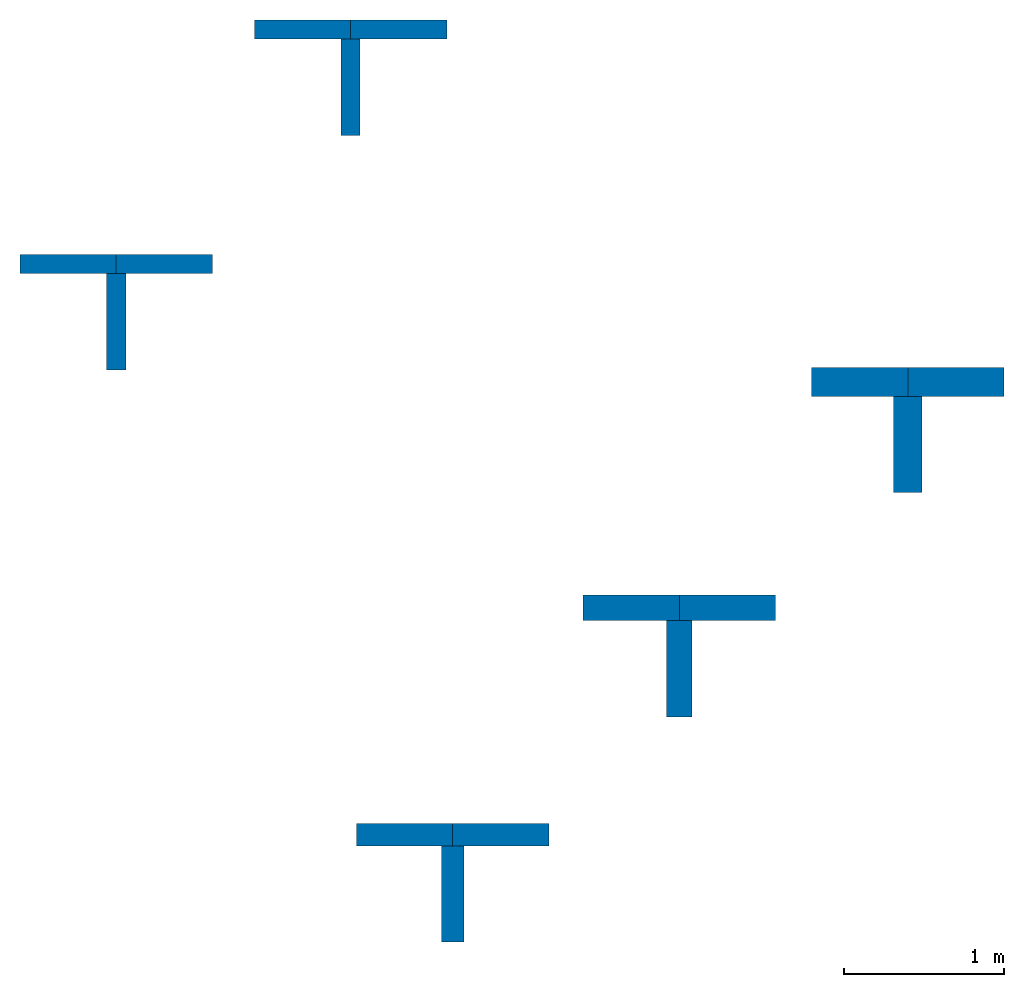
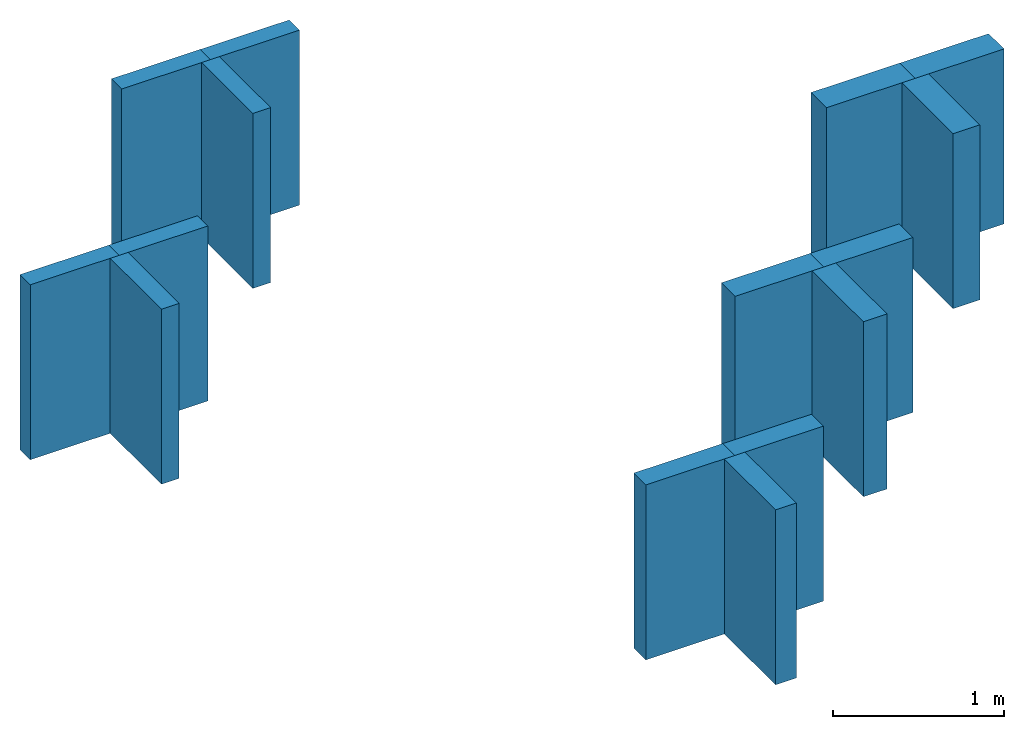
# One storey: 15 walls.
"""IFC2X3 building model written with IfcOpenShell, lengths in millimetres."""

from ifc_helpers import new_model, entity, si_unit, converted_unit, derived_unit, direction, frame, frame_2d, origin, place, context, subcontext, project, spatial, rectangle, extrude, material, layer, layer_set, layer_usage, type_object, element, save


model = new_model("IFC2X3")

# Units and contexts
model_context = context("Model", 3, precision=0.01, world=origin(), true_north=direction((6.12303176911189e-17, 1.0)))
context_of_model = context(None, 3, precision=0.01, world=origin(), true_north=direction((6.12303176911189e-17, 1.0)))
body_context = subcontext(model_context, "Body", "Model", "MODEL_VIEW")
ifc_project = project(units=[si_unit("LENGTHUNIT", "METRE", prefix="MILLI"), si_unit("AREAUNIT", "SQUARE_METRE"), si_unit("VOLUMEUNIT", "CUBIC_METRE"), converted_unit("PLANEANGLEUNIT", "DEGREE", entity("IfcRatioMeasure", 0.0174532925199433), si_unit("PLANEANGLEUNIT", "RADIAN"), dimensions=[0, 0, 0, 0, 0, 0, 0]), si_unit("MASSUNIT", "GRAM", prefix="KILO"), derived_unit("MASSDENSITYUNIT", [(si_unit("MASSUNIT", "GRAM", prefix="KILO"), 1), (si_unit("LENGTHUNIT", "METRE"), -3)]), derived_unit("MOMENTOFINERTIAUNIT", [(si_unit("LENGTHUNIT", "METRE"), 4)]), si_unit("TIMEUNIT", "SECOND"), si_unit("FREQUENCYUNIT", "HERTZ"), si_unit("THERMODYNAMICTEMPERATUREUNIT", "DEGREE_CELSIUS"), derived_unit("THERMALTRANSMITTANCEUNIT", [(si_unit("MASSUNIT", "GRAM", prefix="KILO"), 1), (si_unit("THERMODYNAMICTEMPERATUREUNIT", "KELVIN"), -1), (si_unit("TIMEUNIT", "SECOND"), -3)]), derived_unit("VOLUMETRICFLOWRATEUNIT", [(si_unit("LENGTHUNIT", "METRE"), 3), (si_unit("TIMEUNIT", "SECOND"), -1)]), si_unit("ELECTRICCURRENTUNIT", "AMPERE"), si_unit("ELECTRICVOLTAGEUNIT", "VOLT"), si_unit("POWERUNIT", "WATT"), si_unit("FORCEUNIT", "NEWTON", prefix="KILO"), si_unit("ILLUMINANCEUNIT", "LUX"), si_unit("LUMINOUSFLUXUNIT", "LUMEN"), si_unit("LUMINOUSINTENSITYUNIT", "CANDELA"), derived_unit("USERDEFINED", [(si_unit("MASSUNIT", "GRAM", prefix="KILO"), -1), (si_unit("LENGTHUNIT", "METRE"), -2), (si_unit("TIMEUNIT", "SECOND"), 3), (si_unit("LUMINOUSFLUXUNIT", "LUMEN"), 1)]), derived_unit("LINEARVELOCITYUNIT", [(si_unit("LENGTHUNIT", "METRE"), 1), (si_unit("TIMEUNIT", "SECOND"), -1)]), si_unit("PRESSUREUNIT", "PASCAL"), derived_unit("USERDEFINED", [(si_unit("LENGTHUNIT", "METRE"), -2), (si_unit("MASSUNIT", "GRAM", prefix="KILO"), 1), (si_unit("TIMEUNIT", "SECOND"), -2)]), derived_unit("LINEARFORCEUNIT", [(si_unit("MASSUNIT", "GRAM", prefix="KILO"), 1), (si_unit("LENGTHUNIT", "METRE"), 1), (si_unit("TIMEUNIT", "SECOND"), -2), (si_unit("LENGTHUNIT", "METRE"), -1)]), derived_unit("PLANARFORCEUNIT", [(si_unit("MASSUNIT", "GRAM", prefix="KILO"), 1), (si_unit("LENGTHUNIT", "METRE"), 1), (si_unit("TIMEUNIT", "SECOND"), -2), (si_unit("LENGTHUNIT", "METRE"), -2)])], contexts=[model_context, context_of_model])

# Site, building, storey
site_placement = place(None, origin())
site = spatial("IfcSite", under=ifc_project, at=site_placement, Name="Default", CompositionType="ELEMENT")
building_placement = place(site_placement, origin())
building = spatial("IfcBuilding", under=site, at=building_placement, CompositionType="ELEMENT")
storey_placement = place(building_placement, origin())
storey = spatial("IfcBuildingStorey", under=building, at=storey_placement, Name="Begane grond", CompositionType="ELEMENT", Elevation=0.0)

# Walls
ifc_material = material(Name="Knauf Insulation_Ecose® glaswol_TP 432KD")
ifc_layer_1 = layer(ifc_material, 120.0)
ifc_layer_set_1 = layer_set([ifc_layer_1], Name="Basic Wall:NLRS_21_WA_SmartCavity 031_120x600x1250mm")
ifc_layer_usage_1 = layer_usage(ifc_layer_set_1, "AXIS2", "NEGATIVE", 60.0)
wall_type_1 = type_object("IfcWallType", Name="Basic Wall:NLRS_21_WA_SmartCavity 031_120x600x1250mm", PredefinedType="STANDARD", material=ifc_layer_set_1)
wall_1_placement = place(storey_placement, frame((4756.10904958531, 7609.97303404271, 0.0)))
element("IfcWallStandardCase", 1, at=wall_1_placement, inside=storey, type_object=wall_type_1, material=ifc_layer_usage_1, Name="Basic Wall:NLRS_21_WA_SmartCavity 031_120x600x1250mm:2447", ObjectType="Basic Wall:NLRS_21_WA_SmartCavity 031_120x600x1250mm", context=body_context, shape_type="SweptSolid", body=[
    extrude(rectangle(XDim=600.000000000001, YDim=120.000000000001, at=frame_2d((300.0, -1.3855583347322e-13), x_axis=(-1.0, 0.0))), origin(), (0.0, 0.0, 1.0), 1250.0),
])
ifc_layer_usage_2 = layer_usage(ifc_layer_set_1, "AXIS2", "NEGATIVE", 60.0)
wall_2_placement = place(storey_placement, frame((5356.10904958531, 7549.97303404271, 0.0), z_axis=(0.0, 0.0, 1.0), x_axis=(0.0, -1.0, 0.0)))
element("IfcWallStandardCase", 2, at=wall_2_placement, inside=storey, type_object=wall_type_1, material=ifc_layer_usage_2, Name="Basic Wall:NLRS_21_WA_SmartCavity 031_120x600x1250mm:2448", ObjectType="Basic Wall:NLRS_21_WA_SmartCavity 031_120x600x1250mm", context=body_context, shape_type="SweptSolid", body=[
    extrude(rectangle(XDim=600.0, YDim=120.000000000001, at=frame_2d((300.0, -7.105427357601e-14), x_axis=(-1.0, 0.0))), origin(), (0.0, 0.0, 1.0), 1250.0),
])
ifc_layer_usage_3 = layer_usage(ifc_layer_set_1, "AXIS2", "NEGATIVE", 60.0)
wall_3_placement = place(storey_placement, frame((5356.10904958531, 7609.97303404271, 0.0)))
element("IfcWallStandardCase", 3, at=wall_3_placement, inside=storey, type_object=wall_type_1, material=ifc_layer_usage_3, Name="Basic Wall:NLRS_21_WA_SmartCavity 031_120x600x1250mm:2449", ObjectType="Basic Wall:NLRS_21_WA_SmartCavity 031_120x600x1250mm", context=body_context, shape_type="SweptSolid", body=[
    extrude(rectangle(XDim=599.999999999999, YDim=120.000000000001, at=frame_2d((299.999999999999, -1.3855583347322e-13), x_axis=(-1.0, 0.0))), origin(), (0.0, 0.0, 1.0), 1250.0),
])
ifc_layer_2 = layer(ifc_material, 140.0)
ifc_layer_set_2 = layer_set([ifc_layer_2], Name="Basic Wall:NLRS_21_WA_SmartCavity 031_140x600x1250mm")
ifc_layer_usage_4 = layer_usage(ifc_layer_set_2, "AXIS2", "NEGATIVE", 70.0)
wall_type_2 = type_object("IfcWallType", Name="Basic Wall:NLRS_21_WA_SmartCavity 031_140x600x1250mm", PredefinedType="STANDARD", material=ifc_layer_set_2)
wall_4_placement = place(storey_placement, frame((5392.5051526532, 2589.51488761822, 0.0)))
element("IfcWallStandardCase", 4, at=wall_4_placement, inside=storey, type_object=wall_type_2, material=ifc_layer_usage_4, Name="Basic Wall:NLRS_21_WA_SmartCavity 031_140x600x1250mm:2450", ObjectType="Basic Wall:NLRS_21_WA_SmartCavity 031_140x600x1250mm", context=body_context, shape_type="SweptSolid", body=[
    extrude(rectangle(XDim=599.999999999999, YDim=140.0, at=frame_2d((299.999999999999, -1.35003119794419e-13), x_axis=(-1.0, 0.0))), origin(), (0.0, 0.0, 1.0), 1250.0),
])
ifc_layer_usage_5 = layer_usage(ifc_layer_set_2, "AXIS2", "NEGATIVE", 70.0)
wall_5_placement = place(storey_placement, frame((5992.5051526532, 2519.51488761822, 0.0), z_axis=(0.0, 0.0, 1.0), x_axis=(0.0, -1.0, 0.0)))
element("IfcWallStandardCase", 5, at=wall_5_placement, inside=storey, type_object=wall_type_2, material=ifc_layer_usage_5, Name="Basic Wall:NLRS_21_WA_SmartCavity 031_140x600x1250mm:2451", ObjectType="Basic Wall:NLRS_21_WA_SmartCavity 031_140x600x1250mm", context=body_context, shape_type="SweptSolid", body=[
    extrude(rectangle(XDim=599.999999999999, YDim=140.000000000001, at=frame_2d((300.0, -6.3948846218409e-14), x_axis=(-1.0, 0.0))), origin(), (0.0, 0.0, 1.0), 1250.0),
])
ifc_layer_usage_6 = layer_usage(ifc_layer_set_2, "AXIS2", "NEGATIVE", 70.0)
wall_6_placement = place(storey_placement, frame((5992.5051526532, 2589.51488761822, 0.0)))
element("IfcWallStandardCase", 6, at=wall_6_placement, inside=storey, type_object=wall_type_2, material=ifc_layer_usage_6, Name="Basic Wall:NLRS_21_WA_SmartCavity 031_140x600x1250mm:2452", ObjectType="Basic Wall:NLRS_21_WA_SmartCavity 031_140x600x1250mm", context=body_context, shape_type="SweptSolid", body=[
    extrude(rectangle(XDim=599.999999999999, YDim=140.0, at=frame_2d((299.999999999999, -1.35003119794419e-13), x_axis=(-1.0, 0.0))), origin(), (0.0, 0.0, 1.0), 1250.0),
])
ifc_layer_3 = layer(ifc_material, 160.0)
ifc_layer_set_3 = layer_set([ifc_layer_3], Name="Basic Wall:NLRS_21_WA_SmartCavity 031_160x600x1250mm")
ifc_layer_usage_7 = layer_usage(ifc_layer_set_3, "AXIS2", "NEGATIVE", 80.0)
wall_type_3 = type_object("IfcWallType", Name="Basic Wall:NLRS_21_WA_SmartCavity 031_160x600x1250mm", PredefinedType="STANDARD", material=ifc_layer_set_3)
wall_7_placement = place(storey_placement, frame((6806.71871502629, 4003.72844999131, 0.0)))
element("IfcWallStandardCase", 7, at=wall_7_placement, inside=storey, type_object=wall_type_3, material=ifc_layer_usage_7, Name="Basic Wall:NLRS_21_WA_SmartCavity 031_160x600x1250mm:2453", ObjectType="Basic Wall:NLRS_21_WA_SmartCavity 031_160x600x1250mm", context=body_context, shape_type="SweptSolid", body=[
    extrude(rectangle(XDim=599.999999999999, YDim=160.0, at=frame_2d((299.999999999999, -1.35003119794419e-13), x_axis=(-1.0, 0.0))), origin(), (0.0, 0.0, 1.0), 1250.0),
])
ifc_layer_usage_8 = layer_usage(ifc_layer_set_3, "AXIS2", "NEGATIVE", 80.0)
wall_8_placement = place(storey_placement, frame((7406.71871502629, 3923.72844999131, 0.0), z_axis=(0.0, 0.0, 1.0), x_axis=(0.0, -1.0, 0.0)))
element("IfcWallStandardCase", 8, at=wall_8_placement, inside=storey, type_object=wall_type_3, material=ifc_layer_usage_8, Name="Basic Wall:NLRS_21_WA_SmartCavity 031_160x600x1250mm:2454", ObjectType="Basic Wall:NLRS_21_WA_SmartCavity 031_160x600x1250mm", context=body_context, shape_type="SweptSolid", body=[
    extrude(rectangle(XDim=600.0, YDim=160.0, at=frame_2d((300.0, -7.105427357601e-14), x_axis=(-1.0, 0.0))), origin(), (0.0, 0.0, 1.0), 1250.0),
])
ifc_layer_usage_9 = layer_usage(ifc_layer_set_3, "AXIS2", "NEGATIVE", 80.0)
wall_9_placement = place(storey_placement, frame((7406.71871502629, 4003.72844999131, 0.0)))
element("IfcWallStandardCase", 9, at=wall_9_placement, inside=storey, type_object=wall_type_3, material=ifc_layer_usage_9, Name="Basic Wall:NLRS_21_WA_SmartCavity 031_160x600x1250mm:2455", ObjectType="Basic Wall:NLRS_21_WA_SmartCavity 031_160x600x1250mm", context=body_context, shape_type="SweptSolid", body=[
    extrude(rectangle(XDim=599.999999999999, YDim=160.0, at=frame_2d((299.999999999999, -1.35003119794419e-13), x_axis=(-1.0, 0.0))), origin(), (0.0, 0.0, 1.0), 1250.0),
])
ifc_layer_4 = layer(ifc_material, 180.0)
ifc_layer_set_4 = layer_set([ifc_layer_4], Name="Basic Wall:NLRS_21_WA_SmartCavity 031_180x600x1250mm")
ifc_layer_usage_10 = layer_usage(ifc_layer_set_4, "AXIS2", "NEGATIVE", 90.0)
wall_type_4 = type_object("IfcWallType", Name="Basic Wall:NLRS_21_WA_SmartCavity 031_180x600x1250mm", PredefinedType="STANDARD", material=ifc_layer_set_4)
wall_10_placement = place(storey_placement, frame((8230.93227739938, 5412.94201236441, 0.0)))
element("IfcWallStandardCase", 10, at=wall_10_placement, inside=storey, type_object=wall_type_4, material=ifc_layer_usage_10, Name="Basic Wall:NLRS_21_WA_SmartCavity 031_180x600x1250mm:2457", ObjectType="Basic Wall:NLRS_21_WA_SmartCavity 031_180x600x1250mm", context=body_context, shape_type="SweptSolid", body=[
    extrude(rectangle(XDim=600.0, YDim=180.0, at=frame_2d((300.0, -1.35003119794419e-13), x_axis=(-1.0, 0.0))), origin(), (0.0, 0.0, 1.0), 1250.0),
])
ifc_layer_usage_11 = layer_usage(ifc_layer_set_4, "AXIS2", "NEGATIVE", 90.0)
wall_11_placement = place(storey_placement, frame((8830.93227739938, 5322.9420123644, 0.0), z_axis=(0.0, 0.0, 1.0), x_axis=(0.0, -1.0, 0.0)))
element("IfcWallStandardCase", 11, at=wall_11_placement, inside=storey, type_object=wall_type_4, material=ifc_layer_usage_11, Name="Basic Wall:NLRS_21_WA_SmartCavity 031_180x600x1250mm:2458", ObjectType="Basic Wall:NLRS_21_WA_SmartCavity 031_180x600x1250mm", context=body_context, shape_type="SweptSolid", body=[
    extrude(rectangle(XDim=600.0, YDim=180.0, at=frame_2d((300.0, -6.3948846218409e-14), x_axis=(-1.0, 0.0))), origin(), (0.0, 0.0, 1.0), 1250.0),
])
ifc_layer_usage_12 = layer_usage(ifc_layer_set_4, "AXIS2", "NEGATIVE", 90.0)
wall_12_placement = place(storey_placement, frame((8830.93227739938, 5412.9420123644, 0.0)))
element("IfcWallStandardCase", 12, at=wall_12_placement, inside=storey, type_object=wall_type_4, material=ifc_layer_usage_12, Name="Basic Wall:NLRS_21_WA_SmartCavity 031_180x600x1250mm:2459", ObjectType="Basic Wall:NLRS_21_WA_SmartCavity 031_180x600x1250mm", context=body_context, shape_type="SweptSolid", body=[
    extrude(rectangle(XDim=600.0, YDim=180.0, at=frame_2d((300.0, -1.35003119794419e-13), x_axis=(-1.0, 0.0))), origin(), (0.0, 0.0, 1.0), 1250.0),
])
ifc_layer_5 = layer(ifc_material, 120.0)
ifc_layer_set_5 = layer_set([ifc_layer_5], Name="Basic Wall:NLRS_21_WA_SmartCavity 031_100x600x1250mm")
ifc_layer_usage_13 = layer_usage(ifc_layer_set_5, "AXIS2", "NEGATIVE", 60.0)
wall_type_5 = type_object("IfcWallType", Name="Basic Wall:NLRS_21_WA_SmartCavity 031_100x600x1250mm", PredefinedType="STANDARD", material=ifc_layer_set_5)
wall_13_placement = place(storey_placement, frame((3294.37991418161, 6148.24389863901, 0.0)))
element("IfcWallStandardCase", 13, at=wall_13_placement, inside=storey, type_object=wall_type_5, material=ifc_layer_usage_13, Name="Basic Wall:NLRS_21_WA_SmartCavity 031_100x600x1250mm:8517", ObjectType="Basic Wall:NLRS_21_WA_SmartCavity 031_100x600x1250mm", context=body_context, shape_type="SweptSolid", body=[
    extrude(rectangle(XDim=600.0, YDim=120.000000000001, at=frame_2d((300.0, -1.3855583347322e-13), x_axis=(-1.0, 0.0))), origin(), (0.0, 0.0, 1.0), 1250.0),
])
ifc_layer_usage_14 = layer_usage(ifc_layer_set_5, "AXIS2", "NEGATIVE", 60.0)
wall_14_placement = place(storey_placement, frame((3894.37991418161, 6088.24389863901, 0.0), z_axis=(0.0, 0.0, 1.0), x_axis=(0.0, -1.0, 0.0)))
element("IfcWallStandardCase", 14, at=wall_14_placement, inside=storey, type_object=wall_type_5, material=ifc_layer_usage_14, Name="Basic Wall:NLRS_21_WA_SmartCavity 031_100x600x1250mm:8518", ObjectType="Basic Wall:NLRS_21_WA_SmartCavity 031_100x600x1250mm", context=body_context, shape_type="SweptSolid", body=[
    extrude(rectangle(XDim=600.0, YDim=120.0, at=frame_2d((300.0, -6.75015598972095e-14), x_axis=(-1.0, 0.0))), origin(), (0.0, 0.0, 1.0), 1250.0),
])
ifc_layer_usage_15 = layer_usage(ifc_layer_set_5, "AXIS2", "NEGATIVE", 60.0)
wall_15_placement = place(storey_placement, frame((3894.37991418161, 6148.24389863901, 0.0)))
element("IfcWallStandardCase", 15, at=wall_15_placement, inside=storey, type_object=wall_type_5, material=ifc_layer_usage_15, Name="Basic Wall:NLRS_21_WA_SmartCavity 031_100x600x1250mm:8519", ObjectType="Basic Wall:NLRS_21_WA_SmartCavity 031_100x600x1250mm", context=body_context, shape_type="SweptSolid", body=[
    extrude(rectangle(XDim=600.0, YDim=120.000000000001, at=frame_2d((300.0, -1.3855583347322e-13), x_axis=(-1.0, 0.0))), origin(), (0.0, 0.0, 1.0), 1250.0),
])

save(model, "model.ifc")
